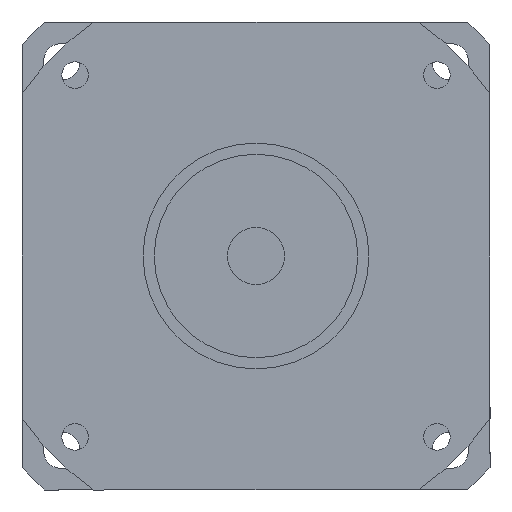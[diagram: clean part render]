
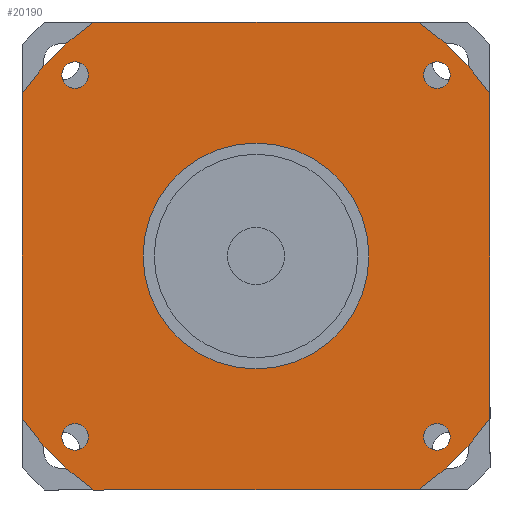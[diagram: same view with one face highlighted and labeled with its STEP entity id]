
A CAD part, left-side view. The second image highlights one B-rep face of the part: STEP entity #20190.
In plain terms, the highlighted planar face has unit normal (-1, 0, 0) as drawn and (0, 0, -1) by its records, which use the part's own axes.
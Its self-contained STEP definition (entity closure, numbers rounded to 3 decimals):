
#16010=CARTESIAN_POINT('',(0.,0.,
-101.));
#16020=DIRECTION('',(0.,0.,1.));
#16030=DIRECTION('',(0.,-1.,0.));
#16040=AXIS2_PLACEMENT_3D('',#16010,#16020,#16030);
#16050=CIRCLE('',#16040,27.76);
#16060=CARTESIAN_POINT('',(0.,-27.76,-101.));
#16070=VERTEX_POINT('',#16060);
#16080=CARTESIAN_POINT('',(27.76,0.,-101.));
#16090=VERTEX_POINT('',#16080);
#16100=EDGE_CURVE('',#16070,#16090,#16050,.T.);
#16230=CARTESIAN_POINT('',(-27.76,0.,-101.));
#16240=VERTEX_POINT('',#16230);
#16270=EDGE_CURVE('',#16240,#16070,#16050,.T.);
#16430=CARTESIAN_POINT('',(39.922,57.5,-101.));
#16440=VERTEX_POINT('',#16430);
#16470=CARTESIAN_POINT('',(0.,0.,
-101.));
#16480=DIRECTION('',(0.,0.,1.));
#16490=DIRECTION('',(0.,-1.,0.));
#16500=AXIS2_PLACEMENT_3D('',#16470,#16480,#16490);
#16510=CIRCLE('',#16500,70.);
#16520=CARTESIAN_POINT('',(57.5,39.922,-101.));
#16530=VERTEX_POINT('',#16520);
#16540=EDGE_CURVE('',#16530,#16440,#16510,.T.);
#18580=CARTESIAN_POINT('',(-41.199,-44.449,-101.));
#18590=VERTEX_POINT('',#18580);
#18670=CARTESIAN_POINT('',(-47.699,-44.449,-101.));
#18680=VERTEX_POINT('',#18670);
#18710=CARTESIAN_POINT('',(-44.449,-44.449,-101.));
#18720=DIRECTION('',(0.,0.,-1.));
#18730=DIRECTION('',(0.,-1.,0.));
#18740=AXIS2_PLACEMENT_3D('',#18710,#18720,#18730);
#18750=CIRCLE('',#18740,3.25);
#18760=CARTESIAN_POINT('',(-44.449,-47.699,-101.));
#18770=VERTEX_POINT('',#18760);
#18780=EDGE_CURVE('',#18770,#18680,#18750,.T.);
#18800=EDGE_CURVE('',#18590,#18770,#18750,.T.);
#18850=CARTESIAN_POINT('',(-57.5,57.5,-101.));
#18860=DIRECTION('',(0.,0.,1.));
#18870=DIRECTION('',(-1.,0.,0.));
#18880=AXIS2_PLACEMENT_3D('',#18850,#18860,#18870);
#18890=PLANE('',#18880);
#18900=CARTESIAN_POINT('',(44.449,-44.449,-101.));
#18910=DIRECTION('',(0.,0.,-1.));
#18920=DIRECTION('',(1.,0.,0.));
#18930=AXIS2_PLACEMENT_3D('',#18900,#18910,#18920);
#18940=CIRCLE('',#18930,3.25);
#18950=CARTESIAN_POINT('',(47.699,-44.449,-101.));
#18960=VERTEX_POINT('',#18950);
#18970=CARTESIAN_POINT('',(44.449,-47.699,-101.));
#18980=VERTEX_POINT('',#18970);
#18990=EDGE_CURVE('',#18960,#18980,#18940,.T.);
#19000=ORIENTED_EDGE('',*,*,#18990,.F.);
#19010=CARTESIAN_POINT('',(44.449,-41.199,-101.));
#19020=VERTEX_POINT('',#19010);
#19030=EDGE_CURVE('',#18980,#19020,#18940,.T.);
#19040=ORIENTED_EDGE('',*,*,#19030,.F.);
#19050=EDGE_CURVE('',#19020,#18960,#18940,.T.);
#19060=ORIENTED_EDGE('',*,*,#19050,.F.);
#19070=EDGE_LOOP('',(#19060,#19040,#19000));
#19080=FACE_BOUND('',#19070,.T.);
#19090=CARTESIAN_POINT('',(44.449,44.449,-101.));
#19100=DIRECTION('',(0.,0.,-1.));
#19110=DIRECTION('',(0.,1.,0.));
#19120=AXIS2_PLACEMENT_3D('',#19090,#19100,#19110);
#19130=CIRCLE('',#19120,3.25);
#19140=CARTESIAN_POINT('',(44.449,47.699,-101.));
#19150=VERTEX_POINT('',#19140);
#19160=CARTESIAN_POINT('',(47.699,44.449,-101.));
#19170=VERTEX_POINT('',#19160);
#19180=EDGE_CURVE('',#19150,#19170,#19130,.T.);
#19190=ORIENTED_EDGE('',*,*,#19180,.F.);
#19200=CARTESIAN_POINT('',(41.199,44.449,-101.));
#19210=VERTEX_POINT('',#19200);
#19220=EDGE_CURVE('',#19170,#19210,#19130,.T.);
#19230=ORIENTED_EDGE('',*,*,#19220,.F.);
#19240=EDGE_CURVE('',#19210,#19150,#19130,.T.);
#19250=ORIENTED_EDGE('',*,*,#19240,.F.);
#19260=EDGE_LOOP('',(#19250,#19230,#19190));
#19270=FACE_BOUND('',#19260,.T.);
#19280=CARTESIAN_POINT('',(-44.449,44.449,-101.));
#19290=DIRECTION('',(0.,0.,-1.));
#19300=DIRECTION('',(-1.,0.,0.));
#19310=AXIS2_PLACEMENT_3D('',#19280,#19290,#19300);
#19320=CIRCLE('',#19310,3.25);
#19330=CARTESIAN_POINT('',(-47.699,44.449,-101.));
#19340=VERTEX_POINT('',#19330);
#19350=CARTESIAN_POINT('',(-44.449,47.699,-101.));
#19360=VERTEX_POINT('',#19350);
#19370=EDGE_CURVE('',#19340,#19360,#19320,.T.);
#19380=ORIENTED_EDGE('',*,*,#19370,.F.);
#19390=CARTESIAN_POINT('',(-44.449,41.199,-101.));
#19400=VERTEX_POINT('',#19390);
#19410=EDGE_CURVE('',#19360,#19400,#19320,.T.);
#19420=ORIENTED_EDGE('',*,*,#19410,.F.);
#19430=EDGE_CURVE('',#19400,#19340,#19320,.T.);
#19440=ORIENTED_EDGE('',*,*,#19430,.F.);
#19450=EDGE_LOOP('',(#19440,#19420,#19380));
#19460=FACE_BOUND('',#19450,.T.);
#19470=ORIENTED_EDGE('',*,*,#18780,.F.);
#19480=EDGE_CURVE('',#18680,#18590,#18750,.T.);
#19490=ORIENTED_EDGE('',*,*,#19480,.F.);
#19500=ORIENTED_EDGE('',*,*,#18800,.F.);
#19510=EDGE_LOOP('',(#19500,#19490,#19470));
#19520=FACE_BOUND('',#19510,.T.);
#19530=CARTESIAN_POINT('',(0.,0.,
-101.));
#19540=DIRECTION('',(0.,0.,1.));
#19550=DIRECTION('',(0.,-1.,0.));
#19560=AXIS2_PLACEMENT_3D('',#19530,#19540,#19550);
#19570=CIRCLE('',#19560,70.);
#19580=CARTESIAN_POINT('',(-57.5,-39.922,-101.));
#19590=VERTEX_POINT('',#19580);
#19600=CARTESIAN_POINT('',(-39.922,-57.5,-101.));
#19610=VERTEX_POINT('',#19600);
#19620=EDGE_CURVE('',#19590,#19610,#19570,.T.);
#19630=ORIENTED_EDGE('',*,*,#19620,.F.);
#19640=CARTESIAN_POINT('',(-57.5,-57.5,-101.));
#19650=DIRECTION('',(1.,0.,0.));
#19660=VECTOR('',#19650,1000.);
#19670=LINE('',#19640,#19660);
#19680=CARTESIAN_POINT('',(39.922,-57.5,-101.));
#19690=VERTEX_POINT('',#19680);
#19700=EDGE_CURVE('',#19610,#19690,#19670,.T.);
#19710=ORIENTED_EDGE('',*,*,#19700,.F.);
#19720=CARTESIAN_POINT('',(0.,0.,
-101.));
#19730=DIRECTION('',(0.,0.,1.));
#19740=DIRECTION('',(0.,-1.,0.));
#19750=AXIS2_PLACEMENT_3D('',#19720,#19730,#19740);
#19760=CIRCLE('',#19750,70.);
#19770=CARTESIAN_POINT('',(57.5,-39.922,-101.));
#19780=VERTEX_POINT('',#19770);
#19790=EDGE_CURVE('',#19690,#19780,#19760,.T.);
#19800=ORIENTED_EDGE('',*,*,#19790,.F.);
#19810=CARTESIAN_POINT('',(57.5,-57.5,-101.));
#19820=DIRECTION('',(0.,1.,0.));
#19830=VECTOR('',#19820,1000.);
#19840=LINE('',#19810,#19830);
#19850=EDGE_CURVE('',#19780,#16530,#19840,.T.);
#19860=ORIENTED_EDGE('',*,*,#19850,.F.);
#19870=ORIENTED_EDGE('',*,*,#16540,.F.);
#19880=CARTESIAN_POINT('',(57.5,57.5,-101.));
#19890=DIRECTION('',(-1.,0.,0.));
#19900=VECTOR('',#19890,1000.);
#19910=LINE('',#19880,#19900);
#19920=CARTESIAN_POINT('',(-39.922,57.5,-101.));
#19930=VERTEX_POINT('',#19920);
#19940=EDGE_CURVE('',#16440,#19930,#19910,.T.);
#19950=ORIENTED_EDGE('',*,*,#19940,.F.);
#19960=CARTESIAN_POINT('',(0.,0.,
-101.));
#19970=DIRECTION('',(0.,0.,1.));
#19980=DIRECTION('',(0.,-1.,0.));
#19990=AXIS2_PLACEMENT_3D('',#19960,#19970,#19980);
#20000=CIRCLE('',#19990,70.);
#20010=CARTESIAN_POINT('',(-57.5,39.922,-101.));
#20020=VERTEX_POINT('',#20010);
#20030=EDGE_CURVE('',#19930,#20020,#20000,.T.);
#20040=ORIENTED_EDGE('',*,*,#20030,.F.);
#20050=CARTESIAN_POINT('',(-57.5,57.5,-101.));
#20060=DIRECTION('',(0.,-1.,0.));
#20070=VECTOR('',#20060,1000.);
#20080=LINE('',#20050,#20070);
#20090=EDGE_CURVE('',#20020,#19590,#20080,.T.);
#20100=ORIENTED_EDGE('',*,*,#20090,.F.);
#20110=EDGE_LOOP('',(#20100,#20040,#19950,#19870,#19860,#19800,#19710,
#19630));
#20120=FACE_OUTER_BOUND('',#20110,.T.);
#20130=EDGE_CURVE('',#16090,#16240,#16050,.T.);
#20140=ORIENTED_EDGE('',*,*,#20130,.T.);
#20150=ORIENTED_EDGE('',*,*,#16100,.T.);
#20160=ORIENTED_EDGE('',*,*,#16270,.T.);
#20170=EDGE_LOOP('',(#20160,#20150,#20140));
#20180=FACE_BOUND('',#20170,.T.);
#20190=ADVANCED_FACE('',(#19080,#19270,#19460,#19520,#20120,#20180),
#18890,.F.);
